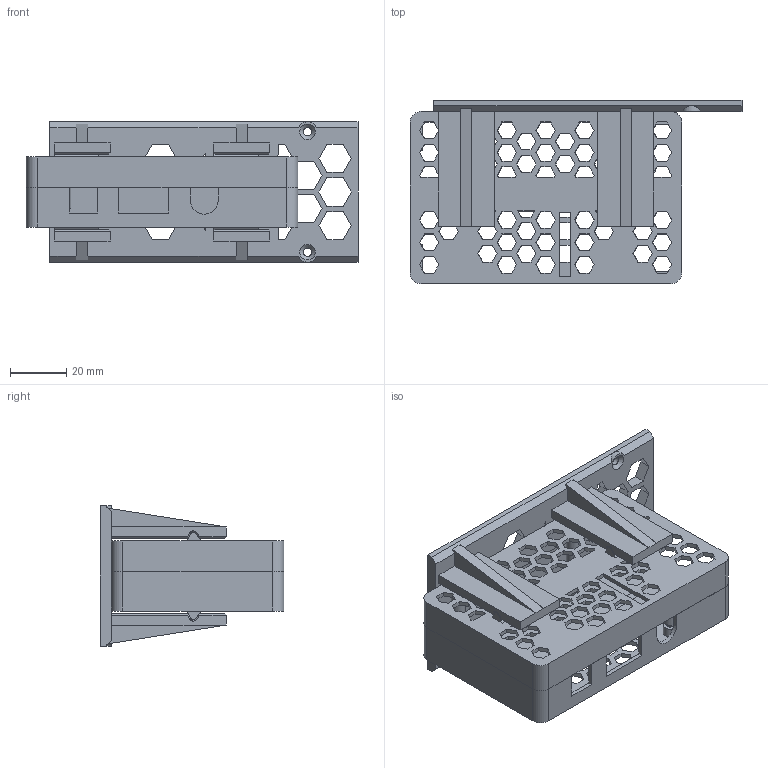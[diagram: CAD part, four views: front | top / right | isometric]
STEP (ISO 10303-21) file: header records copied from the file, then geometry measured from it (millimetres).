
FILE_DESCRIPTION(/* description */ (''),/* implementation_level */ '2;1');
FILE_NAME(/* name */ 'D:/3D/Mine/raspberry_pi_3_b_plus v19.step',/* time_stamp */ '2021-10-19T22:20:40+02:00',/* author */ (''),/* organization */ (''),/* preprocessor_version */ 'ST-DEVELOPER v18.1',/* originating_system */ 'Autodesk Translation Framework v10.10.0.1391',/* authorisation */ '');
FILE_SCHEMA (('AUTOMOTIVE_DESIGN { 1 0 10303 214 3 1 1 }'));
Length unit declared in the file: millimetre
Products named in the file (3): raspberry_pi_3_b_plus; Box; Holder
Assembly tree (2 placements, depth 2):
  raspberry_pi_3_b_plus
    Box
    Holder
Bounding box: 118.5 x 65.5 x 50 mm (x, y, z)
Volume: 53464.2 mm3; surface area: 56476.6 mm2
Topology: 7 solids, 7 shells, 1070 faces, 3068 edges, 2028 vertices
Faces by surface type: plane 1009, cylinder 51, cone 6, torus 4
Full cylindrical faces by diameter (mm): 2.4 x4, 3 x2, 5 x8
Entity records: 34924 total; most frequent: CARTESIAN_POINT 6171, ORIENTED_EDGE 6136, DIRECTION 5342, EDGE_CURVE 3068, LINE 2944, VECTOR 2944, VERTEX_POINT 2028, EDGE_LOOP 1368
